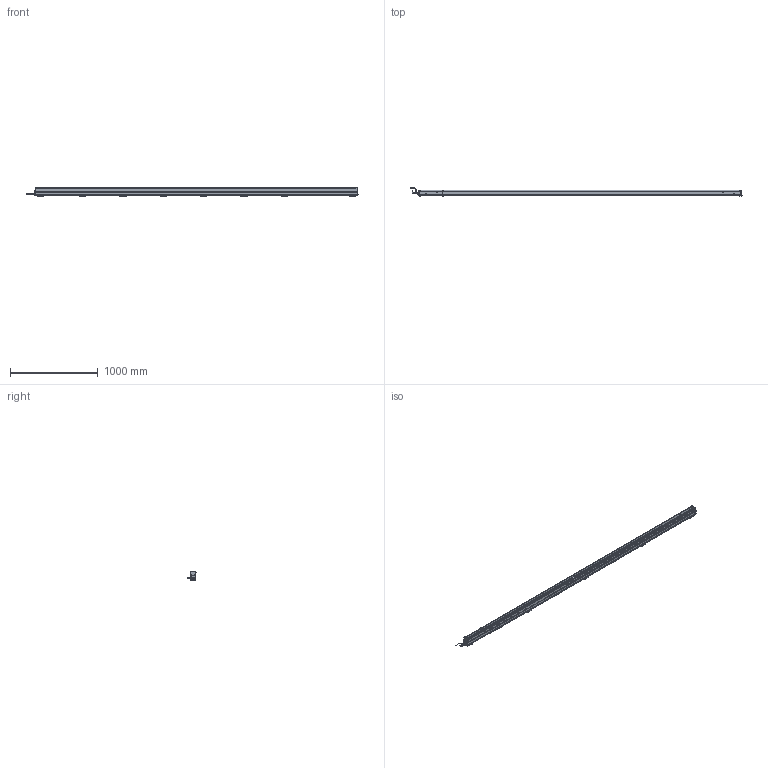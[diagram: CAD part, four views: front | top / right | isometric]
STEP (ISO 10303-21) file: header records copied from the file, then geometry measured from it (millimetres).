
FILE_DESCRIPTION(/* description */ (''),/* implementation_level */ '2;1');
FILE_NAME(/* name */ 'THUNDERION2_3D_3500-3695',/* time_stamp */ '2017-09-28T12:40:25+02:00',/* author */ (''),/* organization */ (''),/* preprocessor_version */ 'ST-DEVELOPER v15.7',/* originating_system */ 'HiCAD 2015 2002.1 Build 408',/* authorisation */ '');
FILE_SCHEMA (('AUTOMOTIVE_DESIGN { 1 0 10303 214 1 1 1 1 }'));
Products named in the file (136): Root; -_ThunderION 3500/3695; -_Side profile; -_Bar; -_Connector straight; EXTRUDED SOLID_0; -_Cord; REVOLVED SOLID_1; REVOLVED SOLID_3; DIN 13-M12x1,5; -_Connector angled; REVOLVED SOLID_2; 4532000100_Mounting bracket bars; -_Side piece; -_Slide piece; -_Bracket small; DIN 13-M3; DIN 76-M3; -_Cable End; light pipe M; light pipe L; -_Cap CE; -_Stud M4; -_Connector M12 male 5 pole_1; -_Contacts; ABSR_1_2_1_1_Inner part; ABSR_1_2_1_2_Inner part; bus; Pg 9; -_Ring tongue terminal; 9230000020_Nut M4; GEWINDE; 9240100020_Spring washer M4; ISO 7051-ST3.5x9.5-C-H_Tapping screws_0; -_Fill; -_Dead end; -_Cap DE; -_Emitter; -_Support Side Profile; -_End Plate
Assembly tree (135 placements, depth 6):
  Root
    -_ThunderION 3500/3695
      -_Side profile
      -_Side profile
      -_Bar
      -_Connector straight
        EXTRUDED SOLID_0
        -_Cord
        REVOLVED SOLID_1
        REVOLVED SOLID_3
          DIN 13-M12x1,5
      -_Connector angled
        REVOLVED SOLID_1
        EXTRUDED SOLID_0
        -_Cord
        REVOLVED SOLID_2
        REVOLVED SOLID_3
          DIN 13-M12x1,5
      4532000100_Mounting bracket bars
        -_Side piece
        -_Side piece
        -_Slide piece
        -_Bracket small
          DIN 13-M3
          DIN 13-M3
          DIN 76-M3
          DIN 76-M3
      4532000100_Mounting bracket bars
        -_Side piece
        -_Side piece
        -_Slide piece
        -_Bracket small
          DIN 13-M3
          DIN 13-M3
          DIN 76-M3
          DIN 76-M3
      4532000100_Mounting bracket bars
        -_Side piece
        -_Side piece
        -_Slide piece
        -_Bracket small
          DIN 13-M3
          DIN 13-M3
          DIN 76-M3
          DIN 76-M3
      4532000100_Mounting bracket bars
        -_Side piece
        -_Side piece
        -_Slide piece
        -_Bracket small
          DIN 13-M3
          DIN 13-M3
          DIN 76-M3
          DIN 76-M3
      4532000100_Mounting bracket bars
        -_Side piece
        -_Side piece
        -_Slide piece
        -_Bracket small
          DIN 13-M3
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Bounding box: 3773.34 x 92.22 x 113 mm (x, y, z)
Volume: 11658371.3 mm3; surface area: 2668482.2 mm2
Topology: 125 solids, 149 shells, 6779 faces, 17287 edges, 10425 vertices
Faces by surface type: plane 2767, cylinder 2754, bspline 376, torus 370, sphere 331, cone 181
Full cylindrical faces by diameter (mm): 0.8 x10, 1 x10, 2.387 x32, 2.5 x1, 2.64 x16, 3 x64, 3.141 x2, 3.5 x8, 4 x26, 4.2 x3, 4.4 x1, 5 x4, 5.5 x40, 7.3 x8, 8 x2, 8.4 x2, 9 x6, 9.6 x1, 10 x2, 10.16 x1, 10.5 x2, 11 x4, 12 x5, 12.8 x1, 13.8 x4, 13.86 x1, 14.5 x3, 15.199 x1, 15.2 x1
Entity records: 395991 total; most frequent: CARTESIAN_POINT 105810, DIRECTION 33565, PRESENTATION_STYLE_ASSIGNMENT 32755, OVER_RIDING_STYLED_ITEM 32634, DRAUGHTING_PRE_DEFINED_CURVE_FONT 32582, CURVE_STYLE 32582, ORIENTED_EDGE 32582, EDGE_CURVE 16291
